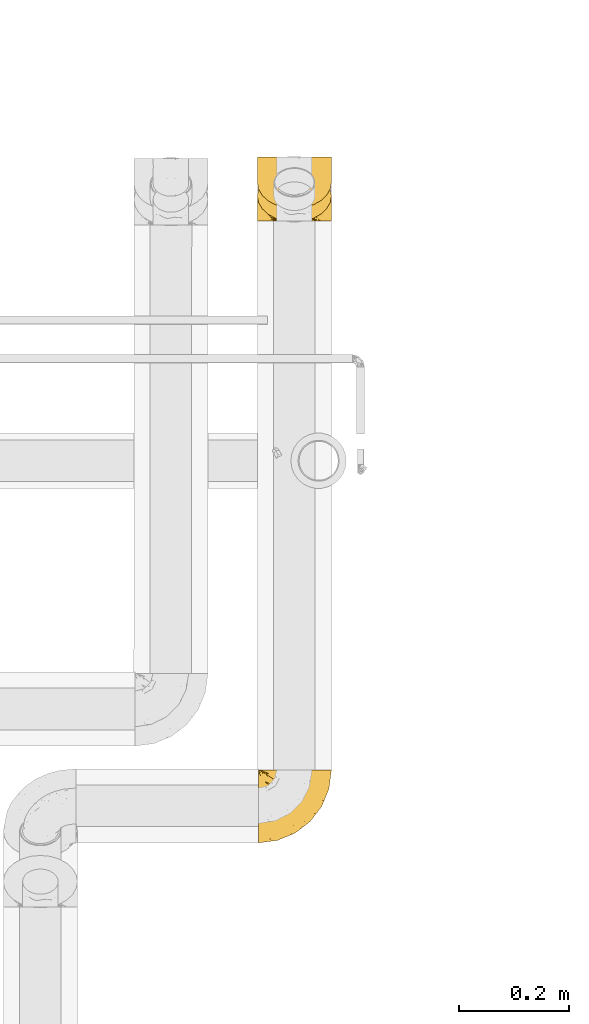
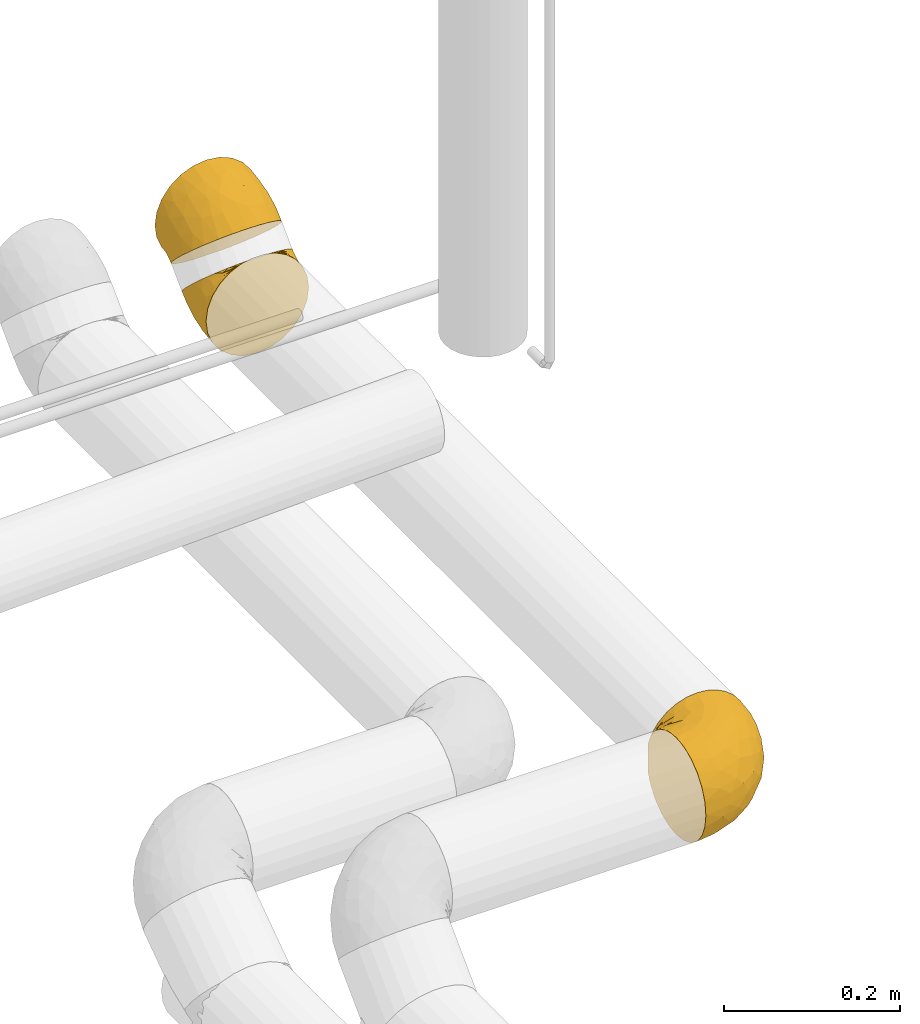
# One storey, part 30 of 156: 3 coverings.
"""IFC2X3 building model written with IfcOpenShell, lengths in millimetres."""

from ifc_helpers import new_model, entity, si_unit, converted_unit, derived_unit, direction, frame, origin_with_axes, place, context, subcontext, project, spatial, open_shell, surface_model, source, transform, mapped, element, save


model = new_model("IFC2X3")

# Units and contexts
model_context = context("Model", 3, precision=0.01, world=frame((0.0, 4.29681676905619e-09, 0.0)), true_north=direction((4.01073788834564e-13, 1.0)))
plan_context = context("Plan", 3, precision=0.01, world=frame((0.0, 4.29681676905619e-09, 0.0)), true_north=direction((4.01073788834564e-13, 1.0)))
body_context = subcontext(model_context, "Body", "Model", "MODEL_VIEW")
ifc_project = project(units=[converted_unit("PLANEANGLEUNIT", "DEGREE", entity("IfcPositiveLengthMeasure", 0.0174532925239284), si_unit("PLANEANGLEUNIT", "RADIAN"), dimensions=[0, 0, 0, 0, 0, 0, 0]), si_unit("AREAUNIT", "SQUARE_METRE"), si_unit("LENGTHUNIT", "METRE", prefix="MILLI"), si_unit("MASSUNIT", "GRAM", prefix="KILO"), si_unit("POWERUNIT", "WATT"), si_unit("PRESSUREUNIT", "PASCAL", prefix="KILO"), si_unit("FORCEUNIT", "NEWTON", prefix="KILO"), si_unit("ELECTRICVOLTAGEUNIT", "VOLT"), si_unit("ELECTRICCURRENTUNIT", "AMPERE"), si_unit("THERMODYNAMICTEMPERATUREUNIT", "DEGREE_CELSIUS"), si_unit("TIMEUNIT", "SECOND"), si_unit("VOLUMEUNIT", "CUBIC_METRE"), derived_unit("LINEARVELOCITYUNIT", [(si_unit("LENGTHUNIT", "METRE"), 1), (si_unit("TIMEUNIT", "SECOND"), -1)]), derived_unit("VOLUMETRICFLOWRATEUNIT", [(si_unit("VOLUMEUNIT", "CUBIC_METRE"), 1), (si_unit("TIMEUNIT", "SECOND"), -1)]), derived_unit("THERMALTRANSMITTANCEUNIT", [(si_unit("POWERUNIT", "WATT"), 1), (si_unit("THERMODYNAMICTEMPERATUREUNIT", "KELVIN"), -1), (si_unit("AREAUNIT", "SQUARE_METRE"), -1)]), derived_unit("SOUNDPRESSUREUNIT", [(si_unit("PRESSUREUNIT", "PASCAL"), 1)])], contexts=[model_context, plan_context])

# Site, building, storey
site_placement = place(None, frame((0.0, -4.29681676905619e-09, 0.0), z_axis=(0.0, 0.0, 1.0), x_axis=(1.0, 0.0, 0.0)))
site = spatial("IfcSite", under=ifc_project, at=site_placement, CompositionType="ELEMENT")
building_placement = place(site_placement, frame((0.0, 4.29681676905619e-09, 0.0), z_axis=(0.0, 0.0, 1.0), x_axis=(1.0, 0.0, 0.0)))
building = spatial("IfcBuilding", under=site, at=building_placement, Name="mc-building", CompositionType="ELEMENT")
storey_placement = place(building_placement, frame((0.0, 0.0, 205200.0), z_axis=(0.0, 0.0, 1.0), x_axis=(1.0, 0.0, 0.0)))
storey = spatial("IfcBuildingStorey", under=building, at=storey_placement, Name="Nivå D + 1,2 m", CompositionType="ELEMENT", Elevation=205200.0)

# Coverings
shared_shape_1 = source(origin_with_axes(), body_context, "Body", "SurfaceModel", [
    surface_model("IfcShellBasedSurfaceModel", [(-26.92396, 64.81475, -18.84935), (-26.92396, 57.87557, -34.73714), (-26.92396, 33.25277, -58.74099), (-26.92396, 0.0, 67.5), (-26.92396, 47.11836, -48.33333), (-26.92396, -33.75, 58.45672), (-26.92396, 64.81475, 18.84935), (-26.92396, 47.11836, 48.33333), (-26.92396, 57.87557, 34.73714), (-26.92396, 17.19351, 65.27353), (-26.92396, 33.25277, 58.74099), (-26.92396, 17.19351, -65.27353), (-26.92396, -17.47029, -65.19999), (-26.92396, -67.5, 0.0), (-26.92396, -47.72971, -47.72971), (-26.92396, -33.75, -58.45672), (-26.92396, -58.45672, -33.75), (-26.92396, -65.19999, -17.47029), (-26.92396, -47.72971, 47.72971), (-26.92396, -17.47029, 65.19999), (-26.92396, -58.45672, 33.75), (-26.92396, -65.19999, 17.47029), (-26.92396, 0.0, -67.5), (-4.47523, 42.55136, -58.74099), (-14.2797, 52.35579, -48.33333), (-21.88621, 59.96227, -34.73714), (6.8804, 31.19577, -65.27353), (42.90297, -4.82666, 58.45672), (19.03807, 19.03815, 67.5), (-26.79296, 64.86901, 18.84935), (-21.88621, 59.96227, 34.73714), (-14.2797, 52.35579, 48.33333), (-26.83133, 64.90738, -18.84935), (-4.47523, 42.55136, 58.74099), (6.8804, 31.19577, 65.27353), (19.03807, 19.03815, -67.5), (52.78814, -14.71179, -47.72971), (42.90297, -4.82666, -58.45672), (31.39145, 6.68481, -65.19999), (60.3733, -22.29691, -33.75), (66.76788, -28.69147, 0.0), (65.14152, -27.06512, -17.47029), (31.39145, 6.68481, 65.19999), (52.78814, -14.71179, 47.72971), (60.3733, -22.29691, 33.75), (65.14152, -27.06512, 17.47029), (-17.24712, 26.63533, -62.52499), (-20.86961, 54.56438, -41.88204), (-26.88232, 60.09848, -29.6871), (-26.84068, 62.32139, -24.63707), (10.95365, 13.63629, -67.5), (-2.88088, 18.40377, -66.31994), (-12.63728, 13.703, -66.46933), (-17.38772, 1.89688, -67.5), (-17.55626, 42.38445, -53.98417), (-7.06872, 30.77635, -62.52499), (-12.89747, 44.93823, -53.98417), (-23.1656, 51.91789, -43.76585), (-2.04947, 4.94785, -67.5), (-22.65632, 40.89598, -53.98417), (-26.79296, 64.86901, -18.84935), (21.81529, -52.66704, -25.83113), (1.88177, -49.99849, -41.0914), (32.35189, -37.66838, -41.0914), (-8.50132, -39.47962, -53.55135), (13.67556, -33.01563, -53.55135), (-3.4151, -22.73613, -62.36187), (-14.6703, 2.43741, -67.5), (-4.55929, -9.11268, -66.34872), (0.24835, -61.92748, -18.88838), (39.90503, -40.81284, -30.63091), (43.61374, -43.96487, -18.88852), (0.7594, -57.09582, -30.5422), (23.38929, -56.46658, -11.72124), (10.55394, -2.43692, -66.39725), (19.77266, -12.90841, -62.36187), (8.4943, 11.993, -67.5), (39.32619, -49.74828, 0.0), (7.36965, -62.98515, 0.0), (33.92769, -21.9049, -53.55135), (-3.79346, -53.48441, 38.09742), (-3.82332, -60.24939, 25.83113), (18.44379, -44.52712, 41.0914), (-2.15182, -63.92927, 12.7363), (22.51745, -54.36178, 20.85864), (-11.40865, -21.90431, 63.35901), (-1.14576, -37.91195, 53.55135), (5.99671, -19.65533, 62.36187), (26.12189, -26.87776, 53.55135), (-4.43549, -9.52293, 66.26711), (24.5297, -11.62229, 61.73498), (13.59118, -2.12316, 66.156), (45.30632, -39.89915, 25.83113), (40.50164, -35.13673, 38.09742), (46.72647, -43.68316, 12.7363), (-14.6703, 2.43741, 67.5), (8.4943, 11.993, 67.5), (-2.04947, 4.94785, 67.5), (-16.76388, 26.76047, 62.52499), (-17.55626, 42.38445, 53.98417), (-22.65632, 40.89598, 53.98417), (-6.63853, 31.02957, 62.52499), (-12.89747, 44.93823, 53.98417), (-25.08877, 63.04706, 24.63707), (-23.8259, 53.33984, 41.88204), (-20.33104, 53.092, 43.76585), (-17.38771, 1.89688, 67.5), (-10.97637, 15.0505, 66.31994), (-0.75362, 18.62539, 66.46933), (10.95365, 13.63629, 67.5), (-23.48749, 61.50467, 29.6871)], [open_shell([[[0, 1, 2]], [[0, 2, 3]], [[2, 1, 4]], [[5, 3, 2]], [[6, 7, 8]], [[7, 6, 9]], [[7, 9, 10]], [[9, 6, 3]], [[6, 0, 3]], [[2, 11, 12]], [[12, 13, 2]], [[14, 12, 15]], [[12, 16, 13]], [[16, 12, 14]], [[17, 13, 16]], [[5, 13, 18]], [[19, 3, 5]], [[20, 13, 21]], [[13, 20, 18]], [[13, 5, 2]], [[12, 11, 22]], [[23, 24, 25]], [[26, 23, 27]], [[28, 25, 29]], [[28, 23, 25]], [[30, 31, 29]], [[25, 32, 29]], [[33, 34, 31]], [[29, 31, 34]], [[34, 28, 29]], [[35, 26, 27]], [[36, 37, 38]], [[39, 36, 38]], [[40, 41, 39]], [[38, 40, 39]], [[27, 40, 38]], [[42, 27, 28]], [[28, 27, 23]], [[43, 44, 40]], [[40, 27, 43]], [[45, 40, 44]], [[38, 35, 27]], [[46, 11, 2]], [[47, 48, 49]], [[26, 35, 50]], [[26, 50, 51]], [[52, 11, 46]], [[53, 22, 11]], [[54, 55, 46]], [[24, 23, 56]], [[1, 48, 57]], [[53, 52, 58]], [[47, 54, 57]], [[49, 25, 47]], [[48, 47, 57]], [[59, 2, 4]], [[51, 58, 52]], [[49, 60, 25]], [[56, 47, 24]], [[55, 54, 56]], [[52, 46, 51]], [[47, 25, 24]], [[46, 2, 59]], [[23, 26, 55]], [[11, 52, 53]], [[51, 46, 55]], [[26, 51, 55]], [[50, 58, 51]], [[59, 57, 54]], [[1, 57, 4]], [[57, 59, 4]], [[46, 59, 54]], [[55, 56, 23]], [[47, 56, 54]], [[61, 62, 63]], [[64, 14, 15]], [[16, 14, 62]], [[65, 63, 62]], [[66, 65, 64]], [[12, 67, 68]], [[17, 69, 13]], [[61, 70, 71]], [[62, 61, 72]], [[61, 73, 69]], [[15, 12, 66]], [[68, 74, 75]], [[58, 68, 67]], [[68, 58, 74]], [[36, 39, 63]], [[75, 65, 66]], [[75, 66, 68]], [[76, 38, 74]], [[12, 22, 67]], [[62, 14, 64]], [[77, 73, 71]], [[78, 73, 77]], [[70, 41, 71]], [[72, 61, 69]], [[40, 77, 71]], [[37, 36, 79]], [[79, 63, 65]], [[75, 37, 79]], [[76, 35, 38]], [[75, 38, 37]], [[38, 75, 74]], [[12, 68, 66]], [[74, 58, 76]], [[66, 64, 15]], [[62, 64, 65]], [[63, 79, 36]], [[75, 79, 65]], [[78, 13, 69]], [[71, 73, 61]], [[78, 69, 73]], [[72, 17, 16]], [[61, 63, 70]], [[71, 41, 40]], [[17, 72, 69]], [[16, 62, 72]], [[63, 39, 70]], [[41, 70, 39]], [[80, 81, 82]], [[13, 78, 83]], [[20, 81, 80]], [[84, 81, 83]], [[85, 86, 87]], [[43, 27, 88]], [[87, 89, 85]], [[87, 90, 91]], [[86, 82, 88]], [[90, 42, 91]], [[86, 18, 80]], [[19, 85, 89]], [[78, 77, 84]], [[86, 85, 5]], [[82, 92, 93]], [[92, 82, 84]], [[81, 20, 21]], [[45, 94, 40]], [[95, 3, 19]], [[92, 94, 45]], [[19, 89, 95]], [[82, 93, 88]], [[91, 28, 96]], [[90, 88, 27]], [[95, 89, 97]], [[89, 91, 97]], [[5, 18, 86]], [[87, 86, 88]], [[92, 45, 44]], [[19, 5, 85]], [[87, 91, 89]], [[92, 44, 93]], [[94, 84, 77]], [[44, 43, 93]], [[88, 93, 43]], [[84, 94, 92]], [[40, 94, 77]], [[83, 81, 21]], [[82, 81, 84]], [[86, 80, 82]], [[18, 20, 80]], [[13, 83, 21]], [[84, 83, 78]], [[88, 90, 87]], [[42, 90, 27]], [[28, 91, 42]], [[96, 97, 91]], [[98, 99, 100]], [[101, 33, 102]], [[103, 8, 104]], [[10, 9, 98]], [[104, 99, 105]], [[106, 107, 9]], [[108, 34, 101]], [[6, 8, 103]], [[9, 3, 106]], [[108, 101, 107]], [[97, 109, 108]], [[7, 104, 8]], [[28, 34, 109]], [[99, 98, 101]], [[105, 30, 110]], [[104, 110, 103]], [[33, 31, 102]], [[10, 100, 7]], [[107, 97, 108]], [[101, 34, 33]], [[110, 104, 105]], [[104, 7, 100]], [[34, 108, 109]], [[107, 101, 98]], [[9, 107, 98]], [[106, 97, 107]], [[102, 105, 99]], [[30, 105, 31]], [[98, 100, 10]], [[104, 100, 99]], [[105, 102, 31]], [[101, 102, 99]]])]),
])
covering_1_placement = place(storey_placement, frame((330320.29581, 462653.94239, 4235.5), z_axis=(0.999999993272, 0.0, -0.000115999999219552), x_axis=(0.0, -1.0, 0.0)))
element("IfcCovering", 1, at=covering_1_placement, inside=storey, Name="BI10T - Cellegummi 18-32 mm kalde rør", PredefinedType="INSULATION", context=body_context, shape_type="MappedRepresentation", body=[
    mapped(shared_shape_1, transform((0.0, 0.0, 0.0), scale=1.0)),
])
shared_shape_2 = source(origin_with_axes(), body_context, "Body", "SurfaceModel", [
    surface_model("IfcShellBasedSurfaceModel", [(25.84538, 64.98932, 62.35913), (0.00764, 64.99235, 67.5), (13.18084, 64.99081, 66.20209), (47.74254, 64.98674, 47.72452), (37.51518, 64.98794, 56.11983), (-64.80711, 64.99998, -18.84935), (-14.36637, 64.99405, 65.95178), (56.13519, 64.98575, 37.49598), (62.37121, 64.98502, 25.82703), (-40.51217, 64.99712, 53.98514), (-28.08386, 64.99566, 61.37685), (-59.30502, 64.99933, 32.22201), (-51.0809, 64.99836, 44.11588), (-64.80711, 64.99998, 18.84935), (66.21125, 64.98457, 13.1656), (67.50764, 64.98442, 0.0), (56.12747, 64.98575, -37.50754), (66.20973, 64.98457, -13.1732), (62.36677, 64.98502, -25.83774), (47.73216, 64.98674, -47.7349), (37.50362, 64.98795, -56.12755), (0.00764, 64.99235, -67.5), (13.17324, 64.99081, -66.2036), (25.83467, 64.98932, -62.36357), (-40.51474, 64.99712, -53.98321), (-51.083, 64.99836, -44.11345), (-59.30655, 64.99933, -32.21921), (-28.08678, 64.99566, -61.37551), (-14.36948, 64.99405, -65.95111), (-64.99236, 57.87557, 34.73714), (-64.99236, 64.81475, -18.84935), (-64.99236, 57.87557, -34.73714), (-64.99236, 47.11836, -48.33333), (-64.99236, 33.25277, -58.74099), (-64.99236, 17.19351, -65.27353), (-64.99236, 17.19351, 65.27353), (-64.99236, 33.25277, 58.74099), (-64.99236, 47.11836, 48.33333), (-64.99236, 64.81475, 18.84935), (-64.99236, 0.0, 67.5), (-64.99236, -17.47029, -65.19999), (-64.99236, -33.75, 58.45672), (-64.99236, -58.45672, -33.75), (-64.99236, -33.75, -58.45672), (-64.99236, -67.5, 0.0), (-64.99236, -47.72971, -47.72971), (-64.99236, -65.19999, -17.47029), (-64.99236, -47.72971, 47.72971), (-64.99236, -17.47029, 65.19999), (-64.99236, -58.45672, 33.75), (-64.99236, -65.19999, 17.47029), (-64.99236, 0.0, -67.5), (-64.86137, 64.869, 18.84935), (-64.86137, 64.869, -18.84935), (-62.34547, 53.22922, -41.88204), (-63.77662, 60.63458, -29.99693), (-59.45179, 54.28276, -41.88204), (-51.69195, 42.79736, -55.00911), (-58.91869, 41.28656, -53.98417), (-64.96725, 64.82515, -18.84935), (-60.98812, 60.00336, -33.50612), (-62.8268, 60.7685, -30.44015), (-64.89412, 64.85544, -18.84935), (-50.85925, 28.04402, -62.52499), (-57.91659, 24.04865, -63.29873), (-50.89491, 14.37946, -66.34132), (-37.07942, 31.39022, -64.04765), (-29.57641, 11.99123, -67.5), (-40.3609, 19.80084, -66.13111), (-55.45608, 1.89674, -67.5), (-54.18483, 53.04113, -46.54979), (-23.48182, 51.52995, -64.03169), (-35.43067, 58.51162, -57.87707), (-1.89022, 55.4563, -67.5), (-19.03312, 19.03536, -67.5), (-28.84029, 40.49172, -64.04337), (-45.93416, 58.14427, -50.53737), (-64.82791, 64.94976, -18.84935), (-43.54998, 44.96584, -57.31482), (-4.94238, 40.12028, -67.5), (-64.84464, 64.90938, -18.84935), (-55.94773, 62.16624, -38.38718), (-59.34565, 60.73144, -34.66059), (-37.17238, 51.3837, -58.29617), (-49.04365, 54.80568, -49.33215), (-11.98775, 29.57782, -67.5), (-64.92686, 64.84188, -18.84935), (-40.1197, 4.9471, -67.5), (-52.73865, 2.43723, -67.5), (-42.5049, -9.52368, -66.26703), (62.98946, 30.69393, 0.0), (60.35242, 32.09545, -19.59988), (7.28472, 26.68363, -65.37453), (17.52119, 46.36965, -64.59456), (25.45424, 30.46751, -59.53215), (-9.85806, -24.12459, -54.51817), (-12.17071, -41.13339, -41.0914), (-38.25793, -37.66769, -53.55135), (-32.07184, -19.65538, -62.36187), (-9.00531, -1.19038, -63.91912), (38.39628, 36.7243, -52.69379), (30.43971, 48.69665, -59.53215), (28.69378, -28.69716, 0.0), (1.25315, -49.75096, 0.0), (13.27667, -37.01252, -22.67031), (38.50559, -14.42804, -16.45671), (49.75082, -1.259, 0.0), (-26.33863, -2.34009, -66.30494), (-28.9935, -57.16844, -25.83113), (-40.00706, -50.88856, -41.0914), (-40.23321, -63.93303, -12.72987), (-49.47741, -21.90532, -63.35867), (18.34914, -3.40005, -52.18245), (35.49176, 13.45134, -47.52349), (28.03668, -10.90196, -39.04022), (-2.46737, 52.55632, -67.5), (13.31899, 11.0549, -60.42054), (48.34117, 35.24914, -42.82742), (55.58649, 33.8939, -31.82524), (47.19763, 10.96143, -31.82591), (10.54862, -30.75079, -36.21624), (2.00332, -27.23059, -46.42976), (-14.74974, -56.3065, -12.67326), (-7.01413, -49.35648, -23.66888), (51.32642, 7.65936, -19.29239), (-30.70134, -62.98584, 0.0), (0.25048, 12.31361, -64.81168), (3.67194, -5.46624, -58.664), (36.97952, -9.39134, -28.42448), (48.53236, 33.9522, 42.18548), (51.34858, 20.58106, 31.81466), (57.76137, 44.02909, 31.81466), (-28.33446, -60.77113, 14.12997), (-16.25424, -52.66751, 25.83113), (-42.87688, -60.42708, 25.83113), (37.51095, -13.66472, 20.81839), (22.24151, 22.98205, 59.52614), (16.83502, 43.5193, 64.59175), (5.27491, 25.30316, 65.64752), (35.12559, 13.63919, 47.93504), (15.62059, -0.77173, 55.06461), (25.58905, -9.342, 42.81638), (14.49807, -38.60445, 15.96163), (-5.84237, -51.69031, 14.94103), (39.03939, -2.39047, 32.87736), (-2.13436, -36.32408, 40.18073), (-17.72236, -29.97858, 53.55135), (-34.30939, -49.51191, 41.0914), (-42.65158, -9.03757, 66.36341), (-39.31892, -22.12731, 62.36187), (-52.73865, 2.43723, 67.5), (18.51354, -28.28566, 30.5289), (-42.63306, -38.70847, 53.55135), (-27.57576, -2.43986, 66.40222), (-40.1197, 4.9471, 67.5), (61.42007, 36.45793, 19.59063), (52.44432, 9.84594, 19.09308), (39.30148, 37.62212, 52.17338), (28.7634, 40.81353, 59.5265), (-0.8066, -10.87248, 58.08825), (-25.06351, -14.25108, 63.18697), (-6.08573, 12.62897, 66.06993), (-29.57641, 11.99123, 67.5), (-2.46737, 52.55632, 67.5), (-4.94238, 40.12028, 67.5), (8.13353, 9.85116, 62.04195), (4.6079, -20.54453, 50.0581), (-11.98775, 29.57782, 67.5), (-19.03312, 19.03536, 67.5), (-12.12275, -4.71378, 63.64172), (-55.45608, 1.89674, 67.5), (-51.30274, 50.10598, 50.51597), (-58.82249, 56.06052, 40.31525), (-53.06918, 43.62117, 53.98417), (-61.38934, 53.48586, 41.88204), (-59.32453, 41.1863, 53.98417), (-38.6707, 30.21355, 64.02542), (-40.80111, 18.77791, 66.26944), (-53.17626, 27.23933, 62.52499), (-62.38692, 61.71308, 29.30728), (-62.71314, 60.34777, 31.27112), (-24.35526, 37.38649, 65.60818), (-55.86896, 57.84644, 41.27952), (-48.32962, 52.86907, 50.85127), (-52.15149, 58.32992, 44.75443), (-50.71576, 13.73621, 66.46319), (-63.71565, 60.14816, 30.95626), (-23.37215, 51.86264, 64.03271), (-1.89022, 55.4563, 67.5), (-38.96782, 49.10286, 58.01476), (-36.16292, 55.0572, 58.01476), (-61.48756, 62.05473, 30.09042), (-64.84464, 64.90938, 18.84935), (-46.93956, 59.30166, 49.33434), (-64.82791, 64.94976, 18.84935), (-57.75769, 62.98378, 35.37218), (-59.86347, 62.16981, 32.53409), (-45.46498, 40.87759, 58.33241), (-64.90176, 64.85228, 18.84935), (-64.94214, 64.83555, 18.84935)], [open_shell([[[0, 1, 2]], [[3, 0, 4]], [[5, 6, 0]], [[3, 7, 8]], [[0, 3, 8]], [[5, 0, 8]], [[6, 9, 10]], [[6, 1, 0]], [[11, 12, 5]], [[5, 9, 6]], [[9, 5, 12]], [[5, 13, 11]], [[8, 14, 15]], [[16, 15, 17]], [[16, 17, 18]], [[19, 20, 15]], [[20, 21, 15]], [[15, 16, 19]], [[22, 20, 23]], [[24, 25, 5]], [[26, 5, 25]], [[24, 5, 27]], [[21, 28, 5]], [[27, 5, 28]], [[15, 21, 5]], [[20, 22, 21]], [[15, 5, 8]], [[29, 30, 31]], [[32, 33, 34]], [[32, 34, 31]], [[35, 31, 34]], [[29, 36, 37]], [[29, 38, 30]], [[29, 35, 36]], [[29, 31, 35]], [[39, 35, 34]], [[34, 40, 39]], [[39, 40, 41]], [[42, 40, 43]], [[40, 42, 44]], [[42, 43, 45]], [[46, 44, 42]], [[41, 44, 47]], [[48, 39, 41]], [[49, 44, 50]], [[44, 49, 47]], [[40, 44, 41]], [[40, 34, 51]], [[30, 38, 52]], [[53, 30, 52]], [[13, 5, 52]], [[53, 52, 5]], [[54, 55, 56]], [[57, 58, 56]], [[31, 30, 59]], [[54, 58, 32]], [[60, 61, 62]], [[58, 63, 64]], [[34, 64, 65]], [[66, 67, 68]], [[65, 64, 63]], [[34, 65, 69]], [[56, 70, 57]], [[27, 71, 72]], [[31, 54, 32]], [[28, 21, 73]], [[74, 66, 75]], [[76, 24, 72]], [[24, 76, 25]], [[58, 33, 32]], [[58, 57, 63]], [[77, 5, 26]], [[60, 70, 56]], [[66, 78, 75]], [[79, 71, 73]], [[80, 81, 82]], [[26, 81, 77]], [[28, 73, 71]], [[28, 71, 27]], [[65, 63, 68]], [[71, 83, 72]], [[26, 25, 81]], [[82, 84, 70]], [[57, 66, 63]], [[78, 57, 70]], [[83, 78, 84]], [[59, 55, 31]], [[58, 54, 56]], [[70, 60, 82]], [[78, 70, 84]], [[80, 77, 81]], [[81, 84, 82]], [[75, 83, 71]], [[57, 78, 66]], [[75, 79, 85]], [[55, 59, 86]], [[69, 65, 87]], [[69, 51, 34]], [[68, 63, 66]], [[82, 53, 80]], [[87, 65, 68]], [[61, 56, 55]], [[53, 82, 60]], [[78, 83, 75]], [[76, 72, 83]], [[83, 84, 76]], [[27, 72, 24]], [[84, 81, 76]], [[25, 76, 81]], [[55, 86, 61]], [[31, 55, 54]], [[62, 53, 60]], [[60, 56, 61]], [[61, 86, 62]], [[34, 33, 64]], [[58, 64, 33]], [[67, 66, 74]], [[67, 87, 68]], [[79, 75, 71]], [[85, 74, 75]], [[88, 89, 40]], [[88, 87, 89]], [[17, 90, 91]], [[92, 93, 94]], [[95, 96, 97]], [[95, 98, 99]], [[100, 94, 101]], [[102, 103, 104]], [[102, 105, 106]], [[23, 93, 22]], [[74, 99, 107]], [[18, 17, 91]], [[108, 42, 109]], [[46, 110, 44]], [[105, 102, 104]], [[42, 108, 46]], [[42, 45, 109]], [[43, 97, 45]], [[111, 97, 43]], [[112, 113, 114]], [[115, 21, 22]], [[94, 113, 116]], [[19, 16, 117]], [[100, 19, 117]], [[40, 89, 111]], [[118, 91, 119]], [[101, 93, 23]], [[22, 93, 115]], [[120, 96, 121]], [[122, 110, 108]], [[104, 103, 122]], [[123, 96, 120]], [[106, 105, 124]], [[122, 103, 125]], [[100, 113, 94]], [[124, 90, 106]], [[118, 16, 18]], [[126, 127, 99]], [[17, 15, 90]], [[117, 118, 119]], [[112, 116, 113]], [[92, 79, 93]], [[95, 97, 98]], [[20, 101, 23]], [[109, 97, 96]], [[126, 85, 92]], [[104, 120, 128]], [[91, 124, 119]], [[107, 98, 89]], [[121, 114, 120]], [[92, 116, 126]], [[116, 92, 94]], [[20, 19, 100]], [[93, 101, 94]], [[100, 101, 20]], [[100, 117, 113]], [[117, 119, 113]], [[114, 113, 119]], [[128, 114, 119]], [[114, 128, 120]], [[97, 109, 45]], [[108, 109, 96]], [[40, 51, 88]], [[107, 89, 87]], [[89, 98, 111]], [[107, 87, 67]], [[98, 107, 99]], [[97, 111, 98]], [[43, 40, 111]], [[127, 116, 112]], [[116, 127, 126]], [[110, 122, 125]], [[123, 122, 108]], [[44, 110, 125]], [[108, 110, 46]], [[121, 127, 112]], [[74, 107, 67]], [[95, 99, 127]], [[99, 74, 126]], [[124, 91, 90]], [[96, 123, 108]], [[104, 122, 123]], [[16, 118, 117]], [[18, 91, 118]], [[93, 79, 115]], [[85, 126, 74]], [[85, 79, 92]], [[128, 124, 105]], [[124, 128, 119]], [[104, 128, 105]], [[123, 120, 104]], [[121, 96, 95]], [[127, 121, 95]], [[114, 121, 112]], [[129, 130, 131]], [[44, 125, 132]], [[133, 134, 132]], [[106, 135, 102]], [[136, 137, 138]], [[139, 140, 141]], [[102, 142, 103]], [[143, 142, 133]], [[141, 144, 139]], [[145, 146, 147]], [[148, 48, 149]], [[48, 148, 150]], [[151, 142, 135]], [[152, 149, 41]], [[41, 47, 152]], [[153, 154, 148]], [[139, 144, 130]], [[49, 134, 147]], [[41, 149, 48]], [[102, 135, 142]], [[155, 130, 156]], [[152, 147, 146]], [[129, 3, 157]], [[144, 135, 156]], [[14, 8, 155]], [[3, 4, 157]], [[137, 0, 2]], [[155, 8, 131]], [[15, 14, 90]], [[158, 4, 0]], [[159, 160, 146]], [[49, 147, 47]], [[161, 162, 153]], [[137, 136, 158]], [[49, 50, 134]], [[139, 130, 129]], [[2, 163, 137]], [[156, 90, 155]], [[138, 137, 164]], [[158, 136, 157]], [[90, 14, 155]], [[144, 156, 130]], [[140, 136, 165]], [[7, 131, 8]], [[145, 147, 133]], [[146, 145, 166]], [[151, 141, 145]], [[143, 133, 132]], [[151, 133, 142]], [[166, 141, 140]], [[7, 3, 129]], [[155, 131, 130]], [[129, 131, 7]], [[129, 157, 139]], [[157, 136, 139]], [[140, 139, 136]], [[165, 136, 138]], [[159, 146, 166]], [[161, 167, 168]], [[138, 161, 165]], [[147, 152, 47]], [[149, 152, 146]], [[150, 148, 154]], [[150, 39, 48]], [[153, 160, 169]], [[160, 148, 149]], [[153, 169, 161]], [[135, 106, 156]], [[162, 154, 153]], [[90, 156, 106]], [[151, 135, 144]], [[133, 151, 145]], [[148, 160, 153]], [[146, 160, 149]], [[50, 44, 132]], [[147, 134, 133]], [[50, 132, 134]], [[143, 125, 103]], [[125, 143, 132]], [[103, 142, 143]], [[167, 161, 138]], [[159, 165, 169]], [[161, 168, 162]], [[169, 165, 161]], [[141, 166, 145]], [[159, 166, 140]], [[165, 159, 140]], [[159, 169, 160]], [[4, 158, 157]], [[0, 137, 158]], [[163, 2, 1]], [[163, 164, 137]], [[151, 144, 141]], [[138, 164, 167]], [[35, 39, 170]], [[171, 172, 173]], [[173, 174, 175]], [[175, 37, 36]], [[176, 177, 162]], [[176, 173, 178]], [[172, 179, 180]], [[181, 176, 168]], [[175, 36, 178]], [[182, 183, 184]], [[172, 174, 173]], [[174, 29, 37]], [[178, 185, 177]], [[186, 174, 180]], [[187, 188, 6]], [[189, 184, 183]], [[10, 9, 190]], [[52, 191, 192]], [[181, 187, 189]], [[190, 9, 193]], [[11, 13, 194]], [[187, 181, 164]], [[36, 35, 178]], [[195, 12, 11]], [[6, 188, 1]], [[193, 9, 12]], [[171, 182, 172]], [[189, 187, 190]], [[191, 182, 196]], [[10, 187, 6]], [[185, 170, 154]], [[38, 29, 186]], [[189, 183, 197]], [[173, 175, 178]], [[164, 188, 187]], [[174, 37, 175]], [[181, 189, 197]], [[181, 168, 167]], [[52, 179, 191]], [[179, 182, 191]], [[177, 185, 154]], [[170, 185, 35]], [[35, 185, 178]], [[162, 168, 176]], [[178, 177, 176]], [[177, 154, 162]], [[197, 171, 173]], [[183, 182, 171]], [[173, 176, 197]], [[197, 176, 181]], [[197, 183, 171]], [[184, 189, 193]], [[195, 184, 193]], [[196, 194, 192]], [[12, 195, 193]], [[11, 194, 195]], [[182, 184, 196]], [[184, 195, 196]], [[194, 196, 195]], [[192, 191, 196]], [[179, 172, 182]], [[52, 198, 179]], [[199, 186, 180]], [[180, 179, 198]], [[199, 180, 198]], [[174, 172, 180]], [[38, 186, 199]], [[29, 174, 186]], [[190, 187, 10]], [[193, 189, 190]], [[164, 181, 167]]])]),
])
covering_2_placement = place(storey_placement, frame((330320.24229, 461498.85076, 4172.95997999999), z_axis=(0.0, 0.0, 1.0), x_axis=(1.0, 0.0, 0.0)))
element("IfcCovering", 2, at=covering_2_placement, inside=storey, Name="BI10T - Cellegummi 18-32 mm kalde rør", PredefinedType="INSULATION", context=body_context, shape_type="MappedRepresentation", body=[
    mapped(shared_shape_2, transform((0.0, 0.0, 0.0), scale=1.0)),
])
shared_shape_3 = source(origin_with_axes(), body_context, "Body", "SurfaceModel", [
    surface_model("IfcShellBasedSurfaceModel", [(-26.92396, 17.19351, 65.27353), (-26.92396, 64.81475, 18.84935), (-26.92396, 0.0, 67.5), (-26.92396, 64.81475, -18.84935), (19.03807, 19.03815, 67.5), (-21.88621, 59.96227, -34.73714), (-26.79296, 64.86901, 18.84935), (-26.83133, 64.90738, -18.84935), (-17.24712, 26.63533, -62.52499), (-26.92396, 17.19351, -65.27353), (-26.92396, 33.25277, -58.74099), (-20.86961, 54.56438, -41.88204), (-26.88232, 60.09848, -29.6871), (-26.84068, 62.32139, -24.63707), (6.8804, 31.19577, -65.27353), (19.03807, 19.03815, -67.5), (10.95365, 13.63629, -67.5), (-2.88088, 18.40377, -66.31994), (-12.63728, 13.703, -66.46933), (-17.38772, 1.89688, -67.5), (-26.92396, 0.0, -67.5), (-17.55626, 42.38445, -53.98417), (-7.06872, 30.77635, -62.52499), (-14.2797, 52.35579, -48.33333), (-4.47523, 42.55136, -58.74099), (-12.89747, 44.93823, -53.98417), (-26.92396, 57.87557, -34.73714), (-23.1656, 51.91789, -43.76585), (-2.04947, 4.94785, -67.5), (-22.65632, 40.89598, -53.98417), (-26.92396, 47.11836, -48.33333), (-26.79296, 64.86901, -18.84935), (21.81529, -52.66704, -25.83113), (1.88177, -49.99849, -41.0914), (32.35189, -37.66838, -41.0914), (-8.50132, -39.47962, -53.55135), (-26.92396, -47.72971, -47.72971), (-26.92396, -33.75, -58.45672), (-26.92396, -58.45672, -33.75), (13.67556, -33.01563, -53.55135), (-3.4151, -22.73613, -62.36187), (-26.92396, -17.47029, -65.19999), (-14.6703, 2.43741, -67.5), (-4.55929, -9.11268, -66.34872), (-26.92396, -65.19999, -17.47029), (0.24835, -61.92748, -18.88838), (-26.92396, -67.5, 0.0), (39.90503, -40.81284, -30.63091), (43.61374, -43.96487, -18.88852), (0.7594, -57.09582, -30.5422), (23.38929, -56.46658, -11.72124), (10.55394, -2.43692, -66.39725), (19.77266, -12.90841, -62.36187), (52.78814, -14.71179, -47.72971), (60.3733, -22.29691, -33.75), (8.4943, 11.993, -67.5), (31.39145, 6.68481, -65.19999), (39.32619, -49.74828, 0.0), (7.36965, -62.98515, 0.0), (65.14152, -27.06512, -17.47029), (66.76788, -28.69147, 0.0), (42.90297, -4.82666, -58.45672), (33.92769, -21.9049, -53.55135), (-3.79346, -53.48441, 38.09742), (-3.82332, -60.24939, 25.83113), (18.44379, -44.52712, 41.0914), (-2.15182, -63.92927, 12.7363), (-26.92396, -58.45672, 33.75), (22.51745, -54.36178, 20.85864), (-11.40865, -21.90431, 63.35901), (-1.14576, -37.91195, 53.55135), (5.99671, -19.65533, 62.36187), (52.78814, -14.71179, 47.72971), (42.90297, -4.82666, 58.45672), (26.12189, -26.87776, 53.55135), (-4.43549, -9.52293, 66.26711), (24.5297, -11.62229, 61.73498), (13.59118, -2.12316, 66.156), (31.39145, 6.68481, 65.19999), (-26.92396, -47.72971, 47.72971), (-26.92396, -17.47029, 65.19999), (-26.92396, -33.75, 58.45672), (45.30632, -39.89915, 25.83113), (40.50164, -35.13673, 38.09742), (-26.92396, -65.19999, 17.47029), (65.14152, -27.06512, 17.47029), (46.72647, -43.68316, 12.7363), (-14.6703, 2.43741, 67.5), (8.4943, 11.993, 67.5), (-2.04947, 4.94785, 67.5), (60.3733, -22.29691, 33.75), (-16.76388, 26.76047, 62.52499), (-17.55626, 42.38445, 53.98417), (-22.65632, 40.89598, 53.98417), (-6.63853, 31.02957, 62.52499), (-4.47523, 42.55136, 58.74099), (-12.89747, 44.93823, 53.98417), (-25.08877, 63.04706, 24.63707), (-26.92396, 57.87557, 34.73714), (-23.8259, 53.33984, 41.88204), (-26.92396, 33.25277, 58.74099), (-20.33104, 53.092, 43.76585), (-17.38771, 1.89688, 67.5), (-10.97637, 15.0505, 66.31994), (-0.75362, 18.62539, 66.46933), (6.8804, 31.19577, 65.27353), (10.95365, 13.63629, 67.5), (-26.92396, 47.11836, 48.33333), (-21.88621, 59.96227, 34.73714), (-23.48749, 61.50467, 29.6871), (-14.2797, 52.35579, 48.33333)], [open_shell([[[0, 1, 2]], [[1, 3, 2]], [[4, 5, 6]], [[5, 7, 6]], [[8, 9, 10]], [[11, 12, 13]], [[14, 15, 16]], [[14, 16, 17]], [[18, 9, 8]], [[19, 20, 9]], [[21, 22, 8]], [[23, 24, 25]], [[26, 12, 27]], [[19, 18, 28]], [[11, 21, 27]], [[13, 5, 11]], [[12, 11, 27]], [[29, 10, 30]], [[17, 28, 18]], [[13, 31, 5]], [[25, 11, 23]], [[22, 21, 25]], [[18, 8, 17]], [[11, 5, 23]], [[8, 10, 29]], [[24, 14, 22]], [[9, 18, 19]], [[17, 8, 22]], [[14, 17, 22]], [[16, 28, 17]], [[29, 27, 21]], [[26, 27, 30]], [[27, 29, 30]], [[8, 29, 21]], [[22, 25, 24]], [[11, 25, 21]], [[32, 33, 34]], [[35, 36, 37]], [[38, 36, 33]], [[39, 34, 33]], [[40, 39, 35]], [[41, 42, 43]], [[44, 45, 46]], [[32, 47, 48]], [[33, 32, 49]], [[32, 50, 45]], [[37, 41, 40]], [[43, 51, 52]], [[28, 43, 42]], [[43, 28, 51]], [[53, 54, 34]], [[52, 39, 40]], [[52, 40, 43]], [[55, 56, 51]], [[41, 20, 42]], [[33, 36, 35]], [[57, 50, 48]], [[58, 50, 57]], [[47, 59, 48]], [[49, 32, 45]], [[60, 57, 48]], [[61, 53, 62]], [[62, 34, 39]], [[52, 61, 62]], [[55, 15, 56]], [[52, 56, 61]], [[56, 52, 51]], [[41, 43, 40]], [[51, 28, 55]], [[40, 35, 37]], [[33, 35, 39]], [[34, 62, 53]], [[52, 62, 39]], [[58, 46, 45]], [[48, 50, 32]], [[58, 45, 50]], [[49, 44, 38]], [[32, 34, 47]], [[48, 59, 60]], [[44, 49, 45]], [[38, 33, 49]], [[34, 54, 47]], [[59, 47, 54]], [[63, 64, 65]], [[46, 58, 66]], [[67, 64, 63]], [[68, 64, 66]], [[69, 70, 71]], [[72, 73, 74]], [[71, 75, 69]], [[71, 76, 77]], [[70, 65, 74]], [[76, 78, 77]], [[70, 79, 63]], [[80, 69, 75]], [[58, 57, 68]], [[70, 69, 81]], [[65, 82, 83]], [[82, 65, 68]], [[64, 67, 84]], [[85, 86, 60]], [[87, 2, 80]], [[82, 86, 85]], [[80, 75, 87]], [[65, 83, 74]], [[77, 4, 88]], [[76, 74, 73]], [[87, 75, 89]], [[75, 77, 89]], [[81, 79, 70]], [[71, 70, 74]], [[82, 85, 90]], [[80, 81, 69]], [[71, 77, 75]], [[82, 90, 83]], [[86, 68, 57]], [[90, 72, 83]], [[74, 83, 72]], [[68, 86, 82]], [[60, 86, 57]], [[66, 64, 84]], [[65, 64, 68]], [[70, 63, 65]], [[79, 67, 63]], [[46, 66, 84]], [[68, 66, 58]], [[74, 76, 71]], [[78, 76, 73]], [[4, 77, 78]], [[88, 89, 77]], [[91, 92, 93]], [[94, 95, 96]], [[97, 98, 99]], [[100, 0, 91]], [[99, 92, 101]], [[102, 103, 0]], [[104, 105, 94]], [[1, 98, 97]], [[0, 2, 102]], [[104, 94, 103]], [[89, 106, 104]], [[107, 99, 98]], [[4, 105, 106]], [[92, 91, 94]], [[101, 108, 109]], [[99, 109, 97]], [[95, 110, 96]], [[100, 93, 107]], [[103, 89, 104]], [[94, 105, 95]], [[109, 99, 101]], [[99, 107, 93]], [[105, 104, 106]], [[103, 94, 91]], [[0, 103, 91]], [[102, 89, 103]], [[96, 101, 92]], [[108, 101, 110]], [[91, 93, 100]], [[99, 93, 92]], [[101, 96, 110]], [[94, 96, 92]], [[80, 2, 3]], [[30, 79, 26]], [[26, 81, 3]], [[30, 10, 67]], [[98, 100, 107]], [[100, 98, 1]], [[1, 0, 100]], [[10, 9, 84]], [[41, 46, 20]], [[38, 41, 37]], [[38, 44, 41]], [[38, 37, 36]], [[46, 41, 44]], [[81, 80, 3]], [[79, 81, 26]], [[84, 67, 10]], [[79, 30, 67]], [[9, 46, 84]], [[9, 20, 46]], [[5, 72, 23]], [[78, 5, 4]], [[24, 23, 90]], [[110, 95, 108]], [[6, 108, 95]], [[95, 105, 6]], [[4, 6, 105]], [[85, 14, 24]], [[15, 60, 56]], [[61, 56, 54]], [[56, 59, 54]], [[53, 61, 54]], [[59, 56, 60]], [[5, 78, 73]], [[5, 73, 72]], [[24, 90, 85]], [[90, 23, 72]], [[85, 60, 14]], [[60, 15, 14]]])]),
])
covering_3_placement = place(storey_placement, frame((330320.28845, 462591.40261, 4172.95997999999), z_axis=(-0.9999999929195, 0.000118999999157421, -6.7762635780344e-21), x_axis=(-8.41455281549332e-05, -0.707105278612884, -0.707108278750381)))
element("IfcCovering", 3, at=covering_3_placement, inside=storey, Name="BI10T - Cellegummi 18-32 mm kalde rør", PredefinedType="INSULATION", context=body_context, shape_type="MappedRepresentation", body=[
    mapped(shared_shape_3, transform((0.0, 0.0, 0.0), scale=1.0)),
])

save(model, "model.ifc")
